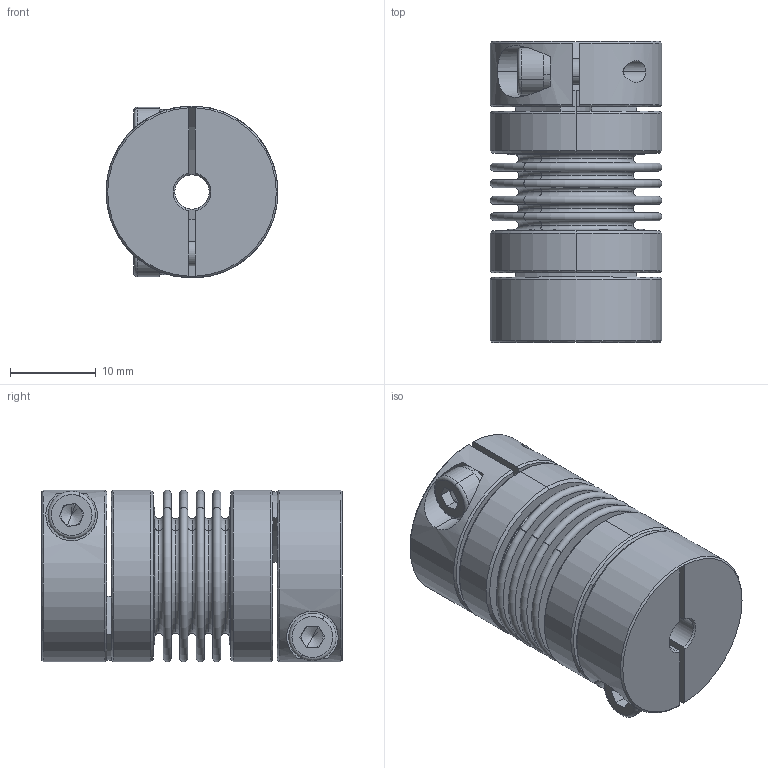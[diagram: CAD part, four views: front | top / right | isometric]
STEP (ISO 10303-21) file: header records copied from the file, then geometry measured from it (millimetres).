
FILE_DESCRIPTION (( 'STEP AP203' ), '1' );
FILE_NAME ('LB-B-D20L34-4-6.STEP', '2021-11-04T01:37:38', ( '' ), ( '' ), 'SwSTEP 2.0', 'SolidWorks 2018', '' );
FILE_SCHEMA (( 'CONFIG_CONTROL_DESIGN' ));
Length unit declared in the file: millimetre
Products named in the file (2): LB-B-D20L34-4-6; 零件4^LB-B-D20L34 波纹管联轴器-组装体
Assembly tree (1 placements, depth 2):
  LB-B-D20L34-4-6
    零件4^LB-B-D20L34 波纹管联轴器-组装体
Bounding box: 20 x 35 x 20 mm (x, y, z)
Volume: 6277.4 mm3; surface area: 9583.9 mm2
Topology: 1 solids, 1 shells, 246 faces, 578 edges, 358 vertices
Faces by surface type: plane 82, torus 68, cylinder 62, cone 34
Entity records: 7554 total; most frequent: CARTESIAN_POINT 1494, DIRECTION 1382, ORIENTED_EDGE 1148, AXIS2_PLACEMENT_3D 606, EDGE_CURVE 574, VERTEX_POINT 358, CIRCLE 356, EDGE_LOOP 288
